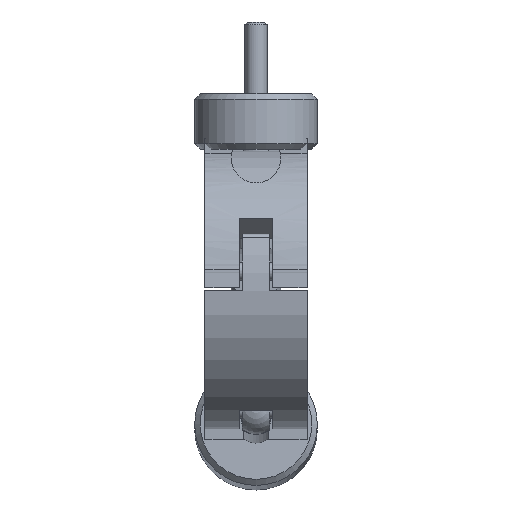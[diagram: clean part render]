
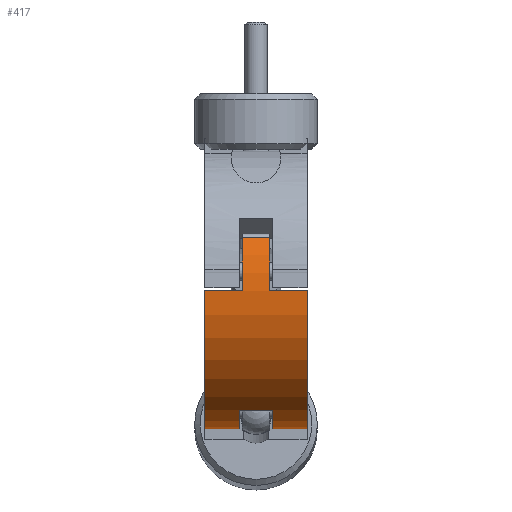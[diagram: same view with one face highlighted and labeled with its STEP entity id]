
A CAD part, left-side view. The second image highlights one B-rep face of the part: STEP entity #417.
In plain terms, the highlighted cylindrical face has radius 25 mm (diameter 50 mm), a partial arc.
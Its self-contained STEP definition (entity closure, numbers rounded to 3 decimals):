
#417 = ADVANCED_FACE( '', ( #720 ), #721, .T. );
#720 = FACE_OUTER_BOUND( '', #933, .T. );
#721 = CYLINDRICAL_SURFACE( '', #934, 25. );
#933 = EDGE_LOOP( '', ( #1211, #1212, #1213, #1214, #1215, #1216, #1217, #1218, #1219, #1220, #1221, #1222 ) );
#934 = AXIS2_PLACEMENT_3D( '', #1223, #1224, #1225 );
#1211 = ORIENTED_EDGE( '', *, *, #1728, .F. );
#1212 = ORIENTED_EDGE( '', *, *, #1724, .F. );
#1213 = ORIENTED_EDGE( '', *, *, #1729, .F. );
#1214 = ORIENTED_EDGE( '', *, *, #1715, .T. );
#1215 = ORIENTED_EDGE( '', *, *, #1730, .T. );
#1216 = ORIENTED_EDGE( '', *, *, #1731, .T. );
#1217 = ORIENTED_EDGE( '', *, *, #1732, .T. );
#1218 = ORIENTED_EDGE( '', *, *, #1733, .F. );
#1219 = ORIENTED_EDGE( '', *, *, #1734, .T. );
#1220 = ORIENTED_EDGE( '', *, *, #1735, .F. );
#1221 = ORIENTED_EDGE( '', *, *, #1736, .F. );
#1222 = ORIENTED_EDGE( '', *, *, #1737, .T. );
#1223 = CARTESIAN_POINT( '', ( 0., -60., 0. ) );
#1224 = DIRECTION( '', ( 0., -1., 0. ) );
#1225 = DIRECTION( '', ( 0., 0., 1. ) );
#1715 = EDGE_CURVE( '', #1916, #1917, #1918, .T. );
#1724 = EDGE_CURVE( '', #1932, #1934, #1935, .T. );
#1728 = EDGE_CURVE( '', #1934, #1941, #1942, .T. );
#1729 = EDGE_CURVE( '', #1916, #1932, #1943, .T. );
#1730 = EDGE_CURVE( '', #1917, #1944, #1945, .T. );
#1731 = EDGE_CURVE( '', #1944, #1946, #1947, .T. );
#1732 = EDGE_CURVE( '', #1946, #1948, #1949, .T. );
#1733 = EDGE_CURVE( '', #1950, #1948, #1951, .T. );
#1734 = EDGE_CURVE( '', #1950, #1952, #1953, .T. );
#1735 = EDGE_CURVE( '', #1954, #1952, #1955, .T. );
#1736 = EDGE_CURVE( '', #1956, #1954, #1957, .T. );
#1737 = EDGE_CURVE( '', #1956, #1941, #1958, .T. );
#1916 = VERTEX_POINT( '', #2056 );
#1917 = VERTEX_POINT( '', #2057 );
#1918 = CIRCLE( '', #2058, 25. );
#1932 = VERTEX_POINT( '', #2076 );
#1934 = VERTEX_POINT( '', #2079 );
#1935 = CIRCLE( '', #2080, 25. );
#1941 = VERTEX_POINT( '', #2087 );
#1942 = LINE( '', #2088, #2089 );
#1943 = LINE( '', #2090, #2091 );
#1944 = VERTEX_POINT( '', #2092 );
#1945 = LINE( '', #2093, #2094 );
#1946 = VERTEX_POINT( '', #2095 );
#1947 = CIRCLE( '', #2096, 25. );
#1948 = VERTEX_POINT( '', #2097 );
#1949 = LINE( '', #2098, #2099 );
#1950 = VERTEX_POINT( '', #2100 );
#1951 = CIRCLE( '', #2101, 25. );
#1952 = VERTEX_POINT( '', #2102 );
#1953 = LINE( '', #2103, #2104 );
#1954 = VERTEX_POINT( '', #2105 );
#1955 = CIRCLE( '', #2106, 25. );
#1956 = VERTEX_POINT( '', #2107 );
#1957 = LINE( '', #2108, #2109 );
#1958 = CIRCLE( '', #2110, 25. );
#2056 = CARTESIAN_POINT( '', ( -25., -9.25, 0. ) );
#2057 = CARTESIAN_POINT( '', ( 0., -9.25, 25. ) );
#2058 = AXIS2_PLACEMENT_3D( '', #2230, #2231, #2232 );
#2076 = CARTESIAN_POINT( '', ( -25., -3., 0. ) );
#2079 = CARTESIAN_POINT( '', ( -21.651, -3., 12.5 ) );
#2080 = AXIS2_PLACEMENT_3D( '', #2247, #2248, #2249 );
#2087 = CARTESIAN_POINT( '', ( -21.651, 3., 12.5 ) );
#2088 = CARTESIAN_POINT( '', ( -21.651, -3., 12.5 ) );
#2089 = VECTOR( '', #2257, 1000. );
#2090 = CARTESIAN_POINT( '', ( -25., -9.25, 0. ) );
#2091 = VECTOR( '', #2258, 1000. );
#2092 = CARTESIAN_POINT( '', ( 0., -2.5, 25. ) );
#2093 = CARTESIAN_POINT( '', ( 0., -9.25, 25. ) );
#2094 = VECTOR( '', #2259, 1000. );
#2095 = CARTESIAN_POINT( '', ( 9.612, -2.5, 23.078 ) );
#2096 = AXIS2_PLACEMENT_3D( '', #2260, #2261, #2262 );
#2097 = CARTESIAN_POINT( '', ( 9.612, 2.5, 23.078 ) );
#2098 = CARTESIAN_POINT( '', ( 9.612, -2.5, 23.078 ) );
#2099 = VECTOR( '', #2263, 1000. );
#2100 = CARTESIAN_POINT( '', ( 0., 2.5, 25. ) );
#2101 = AXIS2_PLACEMENT_3D( '', #2264, #2265, #2266 );
#2102 = CARTESIAN_POINT( '', ( 0., 9.25, 25. ) );
#2103 = CARTESIAN_POINT( '', ( 0., -9.25, 25. ) );
#2104 = VECTOR( '', #2267, 1000. );
#2105 = CARTESIAN_POINT( '', ( -25., 9.25, 0. ) );
#2106 = AXIS2_PLACEMENT_3D( '', #2268, #2269, #2270 );
#2107 = CARTESIAN_POINT( '', ( -25., 3., 0. ) );
#2108 = CARTESIAN_POINT( '', ( -25., -9.25, 0. ) );
#2109 = VECTOR( '', #2271, 1000. );
#2110 = AXIS2_PLACEMENT_3D( '', #2272, #2273, #2274 );
#2230 = CARTESIAN_POINT( '', ( 0., -9.25, 0. ) );
#2231 = DIRECTION( '', ( 0., 1., 0. ) );
#2232 = DIRECTION( '', ( 0., 0., 1. ) );
#2247 = CARTESIAN_POINT( '', ( 0., -3., 0. ) );
#2248 = DIRECTION( '', ( 0., 1., 0. ) );
#2249 = DIRECTION( '', ( 1., 0., 0. ) );
#2257 = DIRECTION( '', ( 0., 1., 0. ) );
#2258 = DIRECTION( '', ( 0., 1., 0. ) );
#2259 = DIRECTION( '', ( 0., 1., 0. ) );
#2260 = CARTESIAN_POINT( '', ( 0., -2.5, 0. ) );
#2261 = DIRECTION( '', ( 0., 1., 0. ) );
#2262 = DIRECTION( '', ( 1., 0., 0. ) );
#2263 = DIRECTION( '', ( 0., 1., 0. ) );
#2264 = CARTESIAN_POINT( '', ( 0., 2.5, 0. ) );
#2265 = DIRECTION( '', ( 0., 1., 0. ) );
#2266 = DIRECTION( '', ( 1., 0., 0. ) );
#2267 = DIRECTION( '', ( 0., 1., 0. ) );
#2268 = CARTESIAN_POINT( '', ( 0., 9.25, 0. ) );
#2269 = DIRECTION( '', ( 0., 1., 0. ) );
#2270 = DIRECTION( '', ( 0., 0., 1. ) );
#2271 = DIRECTION( '', ( 0., 1., 0. ) );
#2272 = CARTESIAN_POINT( '', ( 0., 3., 0. ) );
#2273 = DIRECTION( '', ( 0., 1., 0. ) );
#2274 = DIRECTION( '', ( 1., 0., 0. ) );
